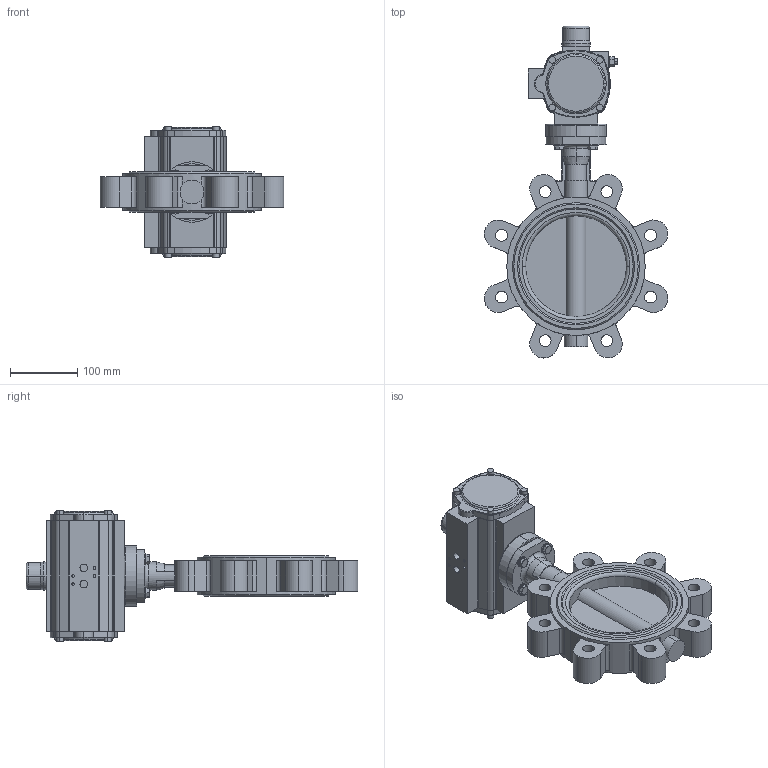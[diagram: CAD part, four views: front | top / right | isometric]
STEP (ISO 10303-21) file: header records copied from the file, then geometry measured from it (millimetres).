
FILE_DESCRIPTION (( 'STEP AP214' ), '1' );
FILE_NAME ('67712.step', '2020-10-26T07:27:54', ( '' ), ( '' ), 'SwSTEP 2.0', 'SolidWorks 2019', '' );
FILE_SCHEMA (( 'AUTOMOTIVE_DESIGN' ));
Length unit declared in the file: millimetre
Products named in the file (8): U-Scheibe DIN 125 A_M8; 67336_20x20x3 - L=18; DA0130-V17_01; TL20-0150_M01; Achtkantreduktion 17-14 mm; 67712; 67407; 6kt-Schr DIN 933_M8x45
Assembly tree (13 placements, depth 2):
  67712
    TL20-0150_M01
    67407
    Achtkantreduktion 17-14 mm
    DA0130-V17_01
    6kt-Schr DIN 933_M8x45  x4
    U-Scheibe DIN 125 A_M8  x4
    67336_20x20x3 - L=18
Bounding box: 272.95 x 493.98 x 195.8 mm (x, y, z)
Volume: 3946663.3 mm3; surface area: 383848.4 mm2
Topology: 15 solids, 15 shells, 831 faces, 2096 edges, 1349 vertices
Faces by surface type: plane 375, cylinder 346, cone 52, torus 46, bspline 12
Entity records: 26206 total; most frequent: CARTESIAN_POINT 5025, DIRECTION 4167, ORIENTED_EDGE 3784, EDGE_CURVE 1892, AXIS2_PLACEMENT_3D 1603, VERTEX_POINT 1229, LINE 961, VECTOR 961
